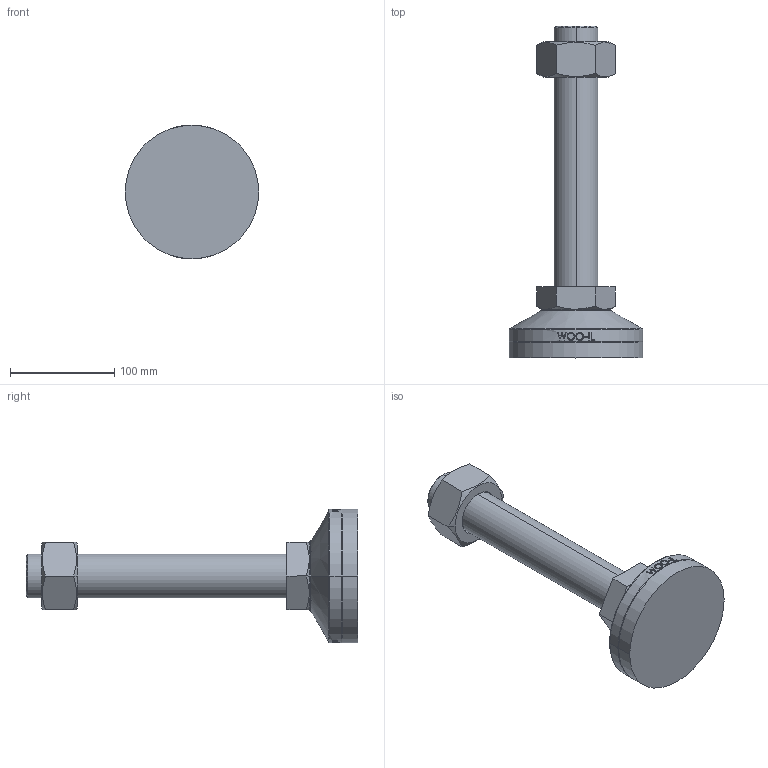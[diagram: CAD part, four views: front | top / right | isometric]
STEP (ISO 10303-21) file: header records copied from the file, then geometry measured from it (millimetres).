
FILE_DESCRIPTION (( 'STEP AP214' ), '1' );
FILE_NAME ('MFR128-M42-250.step', '2021-01-15T08:02:42', ( '' ), ( '' ), 'SwSTEP 2.0', 'SolidWorks 2019', '' );
FILE_SCHEMA (( 'AUTOMOTIVE_DESIGN' ));
Length unit declared in the file: millimetre
Products named in the file (2): MFR128-M42-250
Bounding box: 128 x 318 x 128 mm (x, y, z)
Volume: 989140.9 mm3; surface area: 144815.7 mm2
Topology: 4 solids, 4 shells, 154 faces, 364 edges, 236 vertices
Faces by surface type: plane 82, bspline 32, cylinder 20, cone 14, torus 6
Entity records: 7300 total; most frequent: CARTESIAN_POINT 3918, ORIENTED_EDGE 728, DIRECTION 588, EDGE_CURVE 364, VERTEX_POINT 236, AXIS2_PLACEMENT_3D 206, VECTOR 176, LINE 176
